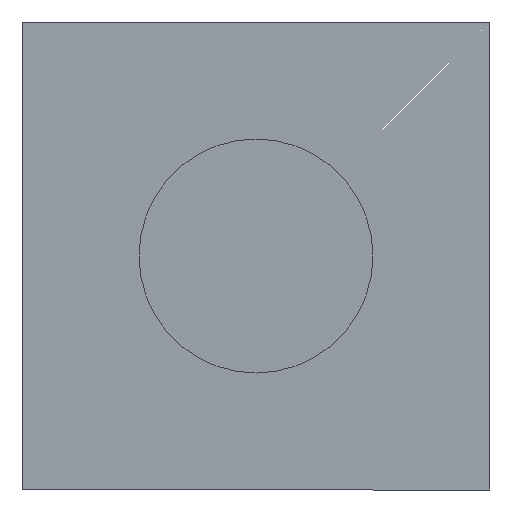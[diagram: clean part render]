
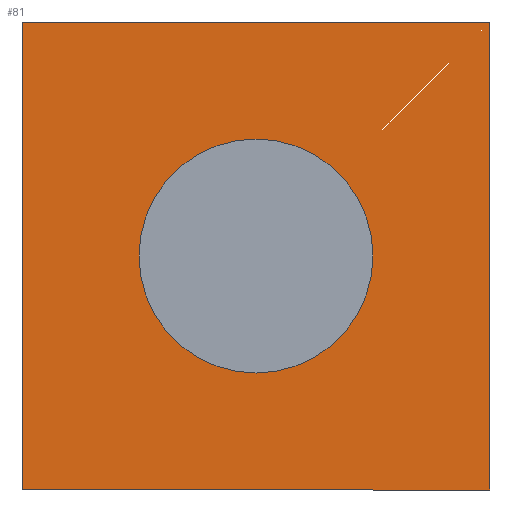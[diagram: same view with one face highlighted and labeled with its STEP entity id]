
A CAD part, front view. The second image highlights one B-rep face of the part: STEP entity #81.
In plain terms, the highlighted planar face has unit normal (0, -1, 0).
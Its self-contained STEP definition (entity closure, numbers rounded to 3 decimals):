
#9 = VERTEX_POINT ( 'NONE', #508 ) ;
#15 = EDGE_CURVE ( 'NONE', #513, #415, #131, .T. ) ;
#21 = CARTESIAN_POINT ( 'NONE',  ( 10., 0., 10. ) ) ;
#24 = LINE ( 'NONE', #21, #370 ) ;
#30 = VECTOR ( 'NONE', #455, 1000. ) ;
#34 = ORIENTED_EDGE ( 'NONE', *, *, #206, .T. ) ;
#57 = CARTESIAN_POINT ( 'NONE',  ( -10., 0., 10. ) ) ;
#63 = EDGE_CURVE ( 'NONE', #432, #9, #24, .T. ) ;
#81 = ADVANCED_FACE ( 'NONE', ( #149 ), #152, .F. ) ;
#111 = ORIENTED_EDGE ( 'NONE', *, *, #63, .F. ) ;
#121 = EDGE_LOOP ( 'NONE', ( #111, #34, #387, #406 ) ) ;
#122 = EDGE_CURVE ( 'NONE', #9, #415, #485, .T. ) ;
#124 = DIRECTION ( 'NONE',  ( -1., 0., 0. ) ) ;
#131 = LINE ( 'NONE', #440, #239 ) ;
#139 = DIRECTION ( 'NONE',  ( 0., 0., -1. ) ) ;
#149 = FACE_OUTER_BOUND ( 'NONE', #121, .T. ) ;
#152 = PLANE ( 'NONE',  #348 ) ;
#160 = CARTESIAN_POINT ( 'NONE',  ( 10., 0., -10. ) ) ;
#181 = DIRECTION ( 'NONE',  ( 0., 0., -1. ) ) ;
#206 = EDGE_CURVE ( 'NONE', #432, #513, #234, .T. ) ;
#234 = LINE ( 'NONE', #265, #30 ) ;
#239 = VECTOR ( 'NONE', #139, 1000. ) ;
#261 = VECTOR ( 'NONE', #124, 1000. ) ;
#265 = CARTESIAN_POINT ( 'NONE',  ( 10., 0., 10. ) ) ;
#348 = AXIS2_PLACEMENT_3D ( 'NONE', #353, #405, #528 ) ;
#353 = CARTESIAN_POINT ( 'NONE',  ( 0., 0., 0. ) ) ;
#370 = VECTOR ( 'NONE', #181, 1000. ) ;
#387 = ORIENTED_EDGE ( 'NONE', *, *, #15, .T. ) ;
#400 = CARTESIAN_POINT ( 'NONE',  ( -10., 0., -10. ) ) ;
#405 = DIRECTION ( 'NONE',  ( 0., 1., 0. ) ) ;
#406 = ORIENTED_EDGE ( 'NONE', *, *, #122, .F. ) ;
#415 = VERTEX_POINT ( 'NONE', #400 ) ;
#432 = VERTEX_POINT ( 'NONE', #445 ) ;
#440 = CARTESIAN_POINT ( 'NONE',  ( -10., 0., 10. ) ) ;
#445 = CARTESIAN_POINT ( 'NONE',  ( 10., 0., 10. ) ) ;
#455 = DIRECTION ( 'NONE',  ( -1., 0., 0. ) ) ;
#485 = LINE ( 'NONE', #160, #261 ) ;
#508 = CARTESIAN_POINT ( 'NONE',  ( 10., 0., -10. ) ) ;
#513 = VERTEX_POINT ( 'NONE', #57 ) ;
#528 = DIRECTION ( 'NONE',  ( 0., 0., 1. ) ) ;
